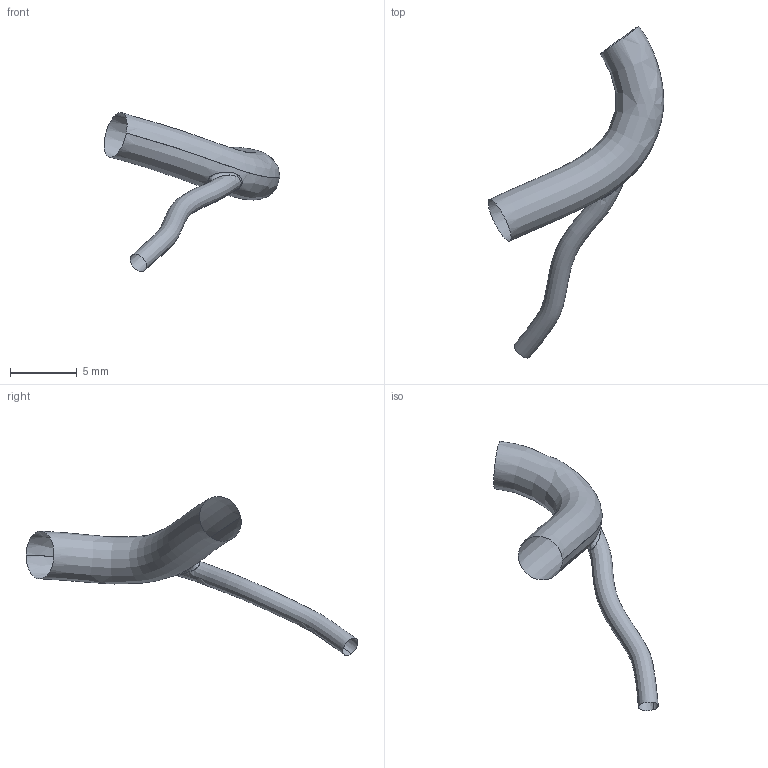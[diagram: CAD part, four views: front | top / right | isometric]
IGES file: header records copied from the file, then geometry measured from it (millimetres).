
Global section: file name: C:\Documents and Settings\Administrator\Desktop\FDA Bifurcation win\RawData_for_IGES\HRCA_Data\19990218.103146\IGES\19990218.103146.RM.BIFUR.ED.igs; native system: Rhinoceros ( May 19 2006 ); preprocessor: Trout Lake IGES 012 May 19 2006; date: 100728.194726; units: centimetre
Bounding box: 13.13 x 24.8 x 11.88 mm (x, y, z)
Surface area: 291.7 mm2 (no closed solid volume)
Topology: 0 solids, 0 shells, 3 faces, 39 edges, 34 vertices
Faces by surface type: bspline 3
